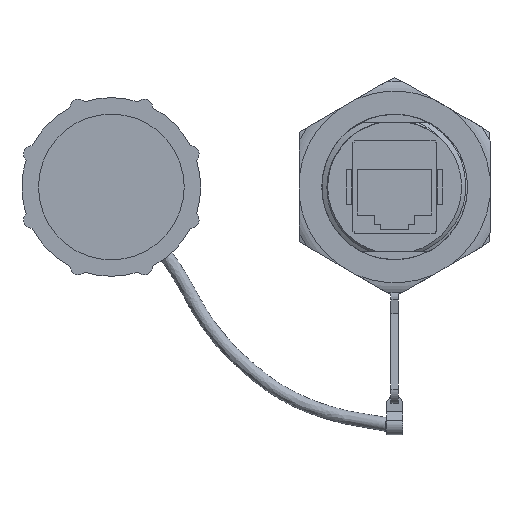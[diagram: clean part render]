
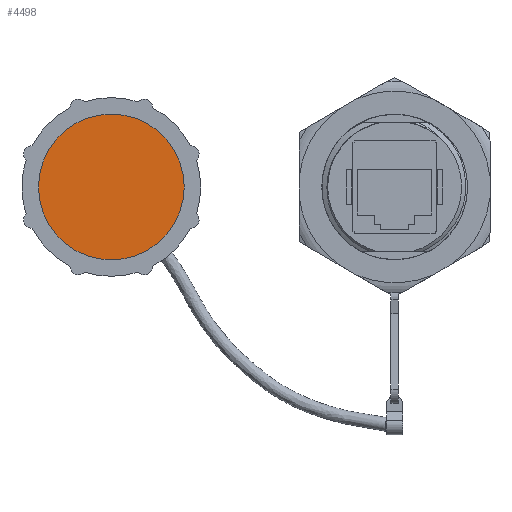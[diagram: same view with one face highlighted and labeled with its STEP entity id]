
A CAD part, left-side view. The second image highlights one B-rep face of the part: STEP entity #4498.
In plain terms, the highlighted planar face has unit normal (-1, 0, 0).
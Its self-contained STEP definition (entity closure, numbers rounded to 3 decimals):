
#1149=PLANE('',#5046);
#1347=FACE_OUTER_BOUND('',#1615,.T.);
#1615=EDGE_LOOP('',(#3332));
#1871=CIRCLE('',#5045,12.6);
#2012=VERTEX_POINT('',#7265);
#2514=EDGE_CURVE('',#2012,#2012,#1871,.T.);
#3332=ORIENTED_EDGE('',*,*,#2514,.F.);
#4498=ADVANCED_FACE('',(#1347),#1149,.F.);
#5045=AXIS2_PLACEMENT_3D('',#7267,#5468,#5469);
#5046=AXIS2_PLACEMENT_3D('',#7268,#5470,#5471);
#5468=DIRECTION('center_axis',(1.,0.,0.));
#5469=DIRECTION('ref_axis',(0.,1.,0.));
#5470=DIRECTION('center_axis',(1.,0.,0.));
#5471=DIRECTION('ref_axis',(0.,0.,-1.));
#7265=CARTESIAN_POINT('',(9.653,36.396,-0.004));
#7267=CARTESIAN_POINT('Origin',(9.653,48.996,-0.004));
#7268=CARTESIAN_POINT('Origin',(9.653,48.996,-0.004));
